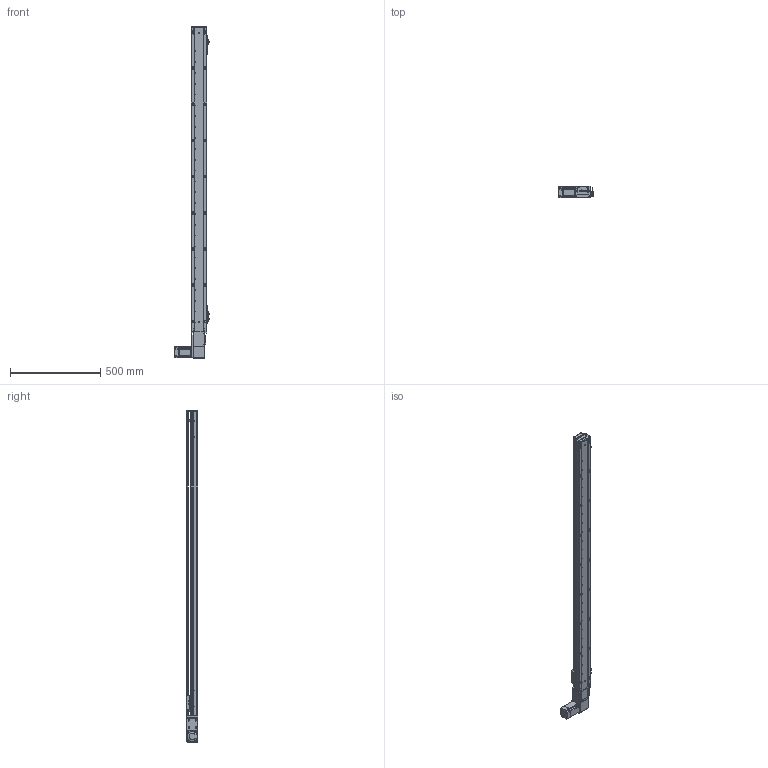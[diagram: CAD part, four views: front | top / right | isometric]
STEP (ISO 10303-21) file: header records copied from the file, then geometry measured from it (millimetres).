
FILE_DESCRIPTION (( 'STEP AP203' ), '1' );
FILE_NAME ('RY80-T-300-LK.SLDASM_1500.step', '2021-03-01T01:59:39', ( '盈信电脑' ), ( '东莞市道滘镇水果街19号' ), 'SwSTEP 2.0', 'SolidWorks 2012', '' );
FILE_SCHEMA (( 'CONFIG_CONTROL_DESIGN' ));
Products named in the file (19): RY80-T-300-LK.SLDASM_1500; RY80-T肮祭謫俋欶; RY80-T萇儂假蚾啣; 侂狟200W萇儂; RY80-T-M4蹟翐; 滅袉蝶18-10; RY80-T翋肮祭謫裔啣; 1; RY80-T-翋肮祭謫釱; RY80-T粣創揤踡輸; RY80-T肮祭湍揤輸2; RY80-T肮祭湍揤輸1; RY80-T綴裔啣; RY80俋离覜茼え; 覜茼ん672; 672嫖萇羲壽假蚾釱; RY80-T-300-LK倰第奻裔啣_1500; RY80-T-300-LK倰第菁釱_1500; RY80-T肮祭謫臏賑輸
Assembly tree (24 placements, depth 3):
  RY80-T-300-LK.SLDASM_1500
    RY80-T-300-LK倰第菁釱_1500
    RY80-T肮祭謫臏賑輸
    RY80-T-300-LK倰第奻裔啣_1500
    RY80-T綴裔啣
    672嫖萇羲壽假蚾釱  x2
    覜茼ん672  x3
    RY80俋离覜茼え
    RY80-T-翋肮祭謫釱
    RY80-T肮祭湍揤輸1
    RY80-T肮祭湍揤輸2
    RY80-T粣創揤踡輸
    RY80-T翋肮祭謫裔啣  x2
    滅袉蝶18-10  x2
    侂狟200W萇儂
      1
    RY80-T肮祭謫俋欶
    RY80-T萇儂假蚾啣
    RY80-T-M4蹟翐  x2
Bounding box: 198.7 x 65 x 1835 mm (x, y, z)
Volume: 2827051 mm3; surface area: 1198664.9 mm2
Topology: 23 solids, 23 shells, 2547 faces, 7053 edges, 4585 vertices
Faces by surface type: plane 1335, cylinder 1006, cone 150, bspline 56
Entity records: 80941 total; most frequent: CARTESIAN_POINT 20081, ORIENTED_EDGE 12550, DIRECTION 11720, EDGE_CURVE 6275, VERTEX_POINT 4126, AXIS2_PLACEMENT_3D 3969, VECTOR 3782, LINE 3782
